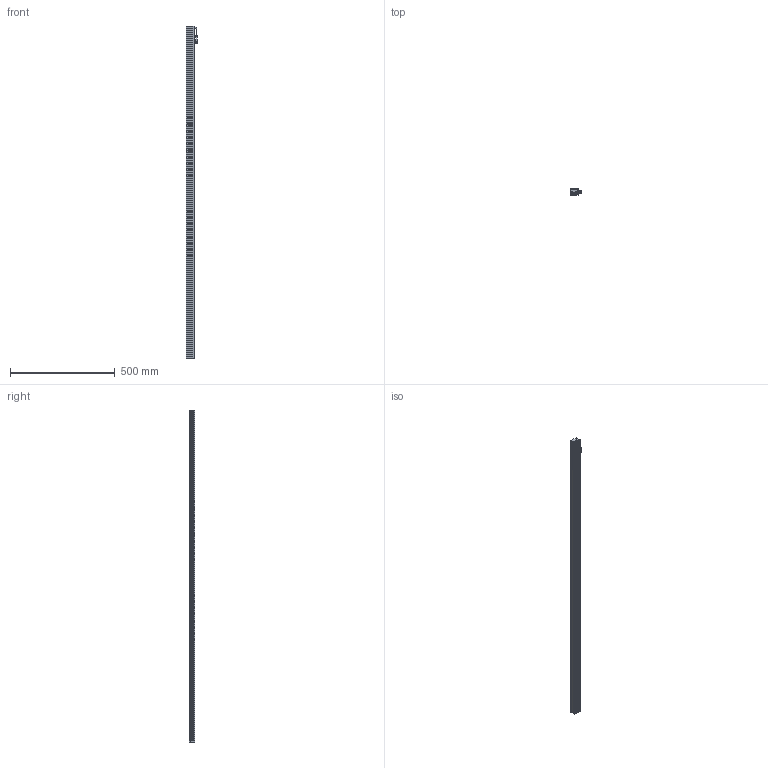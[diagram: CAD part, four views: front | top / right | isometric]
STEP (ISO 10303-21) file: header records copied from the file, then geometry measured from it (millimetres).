
FILE_DESCRIPTION (( 'STEP AP203' ), '1' );
FILE_NAME ('CK-BL158738.STEP', '2026-01-30T01:42:37', ( '' ), ( '' ), 'SwSTEP 2.0', 'SolidWorks 2022', '' );
FILE_SCHEMA (( 'CONFIG_CONTROL_DESIGN' ));
Length unit declared in the file: millimetre
Products named in the file (6): CK-BL158738; CK-BL158738-002A; 十字沉头螺丝 M2x10; CK-BL158738-003A; CK158738-001A; 光源线
Assembly tree (11 placements, depth 2):
  CK-BL158738
    CK158738-001A
    CK-BL158738-002A  x2
    CK-BL158738-003A
    光源线
    十字沉头螺丝 M2x10  x6
Bounding box: 55.84 x 27 x 1587 mm (x, y, z)
Volume: 634491.5 mm3; surface area: 546476.2 mm2
Topology: 13 solids, 13 shells, 641 faces, 1692 edges, 1082 vertices
Faces by surface type: plane 353, cylinder 210, cone 46, bspline 32
Entity records: 16373 total; most frequent: CARTESIAN_POINT 3399, ORIENTED_EDGE 2598, DIRECTION 2515, EDGE_CURVE 1299, LINE 875, VECTOR 875, VERTEX_POINT 846, AXIS2_PLACEMENT_3D 820
